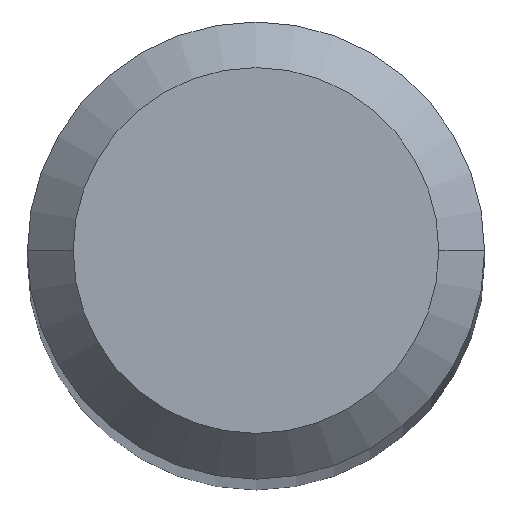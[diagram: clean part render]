
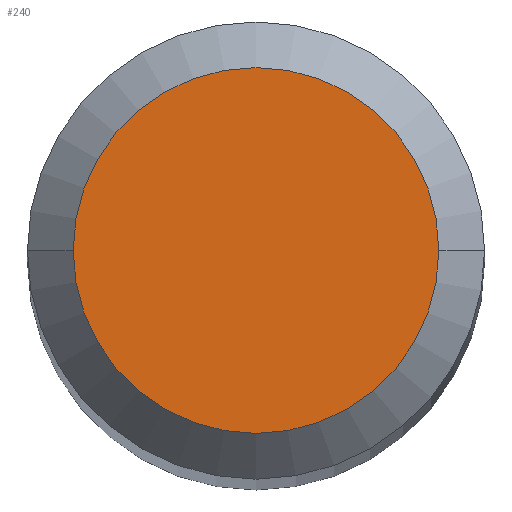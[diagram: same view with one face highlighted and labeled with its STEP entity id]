
A CAD part, top view. The second image highlights one B-rep face of the part: STEP entity #240.
In plain terms, the highlighted planar face has unit normal (0, 0, 1).
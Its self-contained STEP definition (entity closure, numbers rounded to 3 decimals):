
#8 = CARTESIAN_POINT ( 'NONE',  ( 0., 0., 0. ) ) ;
#18 = DIRECTION ( 'NONE',  ( 1., 0., 0. ) ) ;
#37 = DIRECTION ( 'NONE',  ( 0., 0., -1. ) ) ;
#125 = CARTESIAN_POINT ( 'NONE',  ( -1.2, 0., 0. ) ) ;
#129 = DIRECTION ( 'NONE',  ( -1., 0., 0. ) ) ;
#150 = AXIS2_PLACEMENT_3D ( 'NONE', #8, #253, #474 ) ;
#179 = DIRECTION ( 'NONE',  ( 0., 0., 1. ) ) ;
#193 = EDGE_CURVE ( 'NONE', #229, #391, #208, .T. ) ;
#204 = CARTESIAN_POINT ( 'NONE',  ( 0., 1.2, 0. ) ) ;
#208 = CIRCLE ( 'NONE', #266, 1.2 ) ;
#225 = CARTESIAN_POINT ( 'NONE',  ( 0., 0., 0. ) ) ;
#229 = VERTEX_POINT ( 'NONE', #125 ) ;
#240 = ADVANCED_FACE ( 'NONE', ( #336 ), #450, .T. ) ;
#253 = DIRECTION ( 'NONE',  ( 0., 0., -1. ) ) ;
#260 = AXIS2_PLACEMENT_3D ( 'NONE', #204, #179, #18 ) ;
#266 = AXIS2_PLACEMENT_3D ( 'NONE', #225, #37, #129 ) ;
#316 = CARTESIAN_POINT ( 'NONE',  ( 1.2, 0., 0. ) ) ;
#336 = FACE_OUTER_BOUND ( 'NONE', #438, .T. ) ;
#391 = VERTEX_POINT ( 'NONE', #316 ) ;
#426 = ORIENTED_EDGE ( 'NONE', *, *, #193, .F. ) ;
#427 = EDGE_CURVE ( 'NONE', #391, #229, #447, .T. ) ;
#438 = EDGE_LOOP ( 'NONE', ( #426, #443 ) ) ;
#443 = ORIENTED_EDGE ( 'NONE', *, *, #427, .F. ) ;
#447 = CIRCLE ( 'NONE', #150, 1.2 ) ;
#450 = PLANE ( 'NONE',  #260 ) ;
#474 = DIRECTION ( 'NONE',  ( -1., 0., 0. ) ) ;
